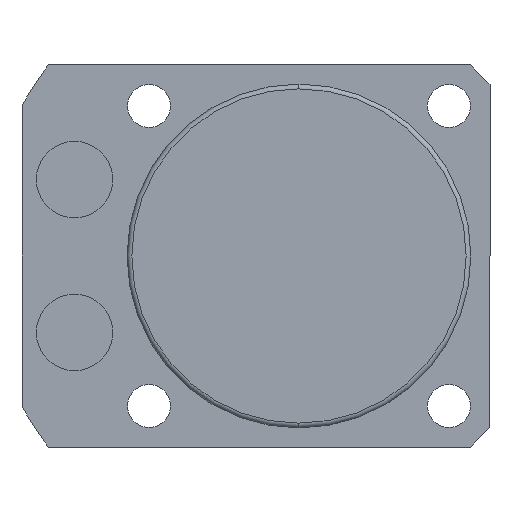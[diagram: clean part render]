
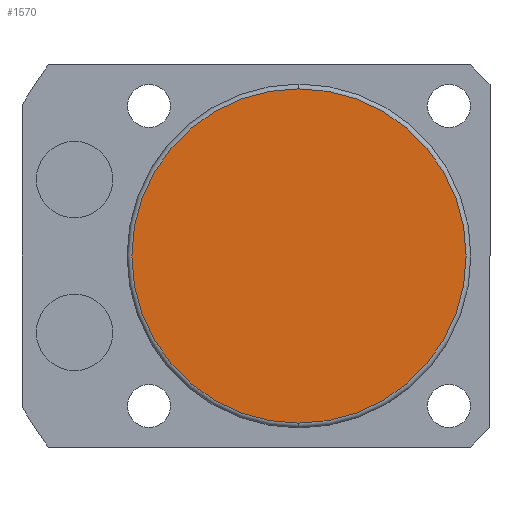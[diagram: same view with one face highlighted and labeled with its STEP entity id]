
A CAD part, front view. The second image highlights one B-rep face of the part: STEP entity #1570.
In plain terms, the highlighted planar face has unit normal (0, -1, 0).
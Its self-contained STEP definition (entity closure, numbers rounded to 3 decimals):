
#10 = VERTEX_POINT ( 'NONE', #231 ) ;
#19 = CIRCLE ( 'NONE', #1167, 17.5 ) ;
#117 = ORIENTED_EDGE ( 'NONE', *, *, #1334, .T. ) ;
#133 = AXIS2_PLACEMENT_3D ( 'NONE', #2213, #2227, #1676 ) ;
#231 = CARTESIAN_POINT ( 'NONE',  ( 0., -135.5, 17.5 ) ) ;
#268 = EDGE_LOOP ( 'NONE', ( #117, #1142 ) ) ;
#273 = EDGE_CURVE ( 'NONE', #10, #2040, #1098, .T. ) ;
#376 = AXIS2_PLACEMENT_3D ( 'NONE', #1919, #631, #2260 ) ;
#631 = DIRECTION ( 'NONE',  ( 0., -1., 0. ) ) ;
#1050 = CARTESIAN_POINT ( 'NONE',  ( 0., -135.5, 0. ) ) ;
#1098 = CIRCLE ( 'NONE', #376, 17.5 ) ;
#1142 = ORIENTED_EDGE ( 'NONE', *, *, #273, .T. ) ;
#1167 = AXIS2_PLACEMENT_3D ( 'NONE', #1050, #1741, #2110 ) ;
#1334 = EDGE_CURVE ( 'NONE', #2040, #10, #19, .T. ) ;
#1351 = FACE_OUTER_BOUND ( 'NONE', #268, .T. ) ;
#1501 = PLANE ( 'NONE',  #133 ) ;
#1570 = ADVANCED_FACE ( 'NONE', ( #1351 ), #1501, .T. ) ;
#1676 = DIRECTION ( 'NONE',  ( 0., 0., -1. ) ) ;
#1741 = DIRECTION ( 'NONE',  ( 0., -1., 0. ) ) ;
#1919 = CARTESIAN_POINT ( 'NONE',  ( 0., -135.5, 0. ) ) ;
#1998 = CARTESIAN_POINT ( 'NONE',  ( 0., -135.5, -17.5 ) ) ;
#2040 = VERTEX_POINT ( 'NONE', #1998 ) ;
#2110 = DIRECTION ( 'NONE',  ( 0., 0., -1. ) ) ;
#2213 = CARTESIAN_POINT ( 'NONE',  ( 0., -135.5, 0. ) ) ;
#2227 = DIRECTION ( 'NONE',  ( 0., -1., 0. ) ) ;
#2260 = DIRECTION ( 'NONE',  ( 0., 0., -1. ) ) ;
